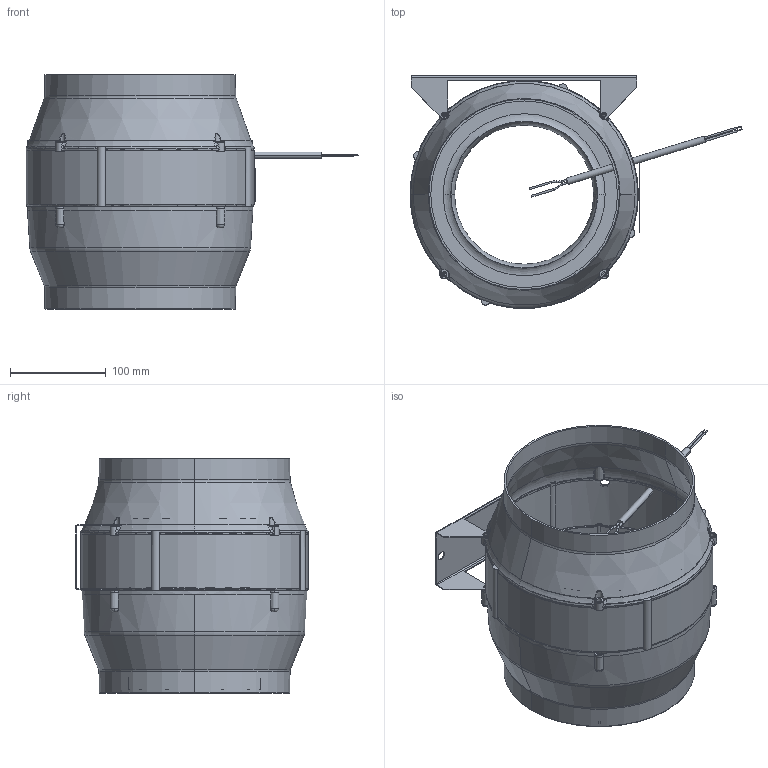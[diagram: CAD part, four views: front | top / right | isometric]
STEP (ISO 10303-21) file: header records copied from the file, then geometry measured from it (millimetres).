
FILE_DESCRIPTION (( 'STEP AP203' ), '1' );
FILE_NAME ('125324-00_EL200LE201.STEP', '2013-10-02T06:06:04', ( '' ), ( '' ), 'SwSTEP 2.0', 'SolidWorks 2012', '' );
FILE_SCHEMA (( 'CONFIG_CONTROL_DESIGN' ));
Length unit declared in the file: millimetre
Products named in the file (1): 125324-00_EL200LE201
Bounding box: 346.27 x 242.77 x 245 mm (x, y, z)
Surface area: 433753.6 mm2 (no closed solid volume)
Topology: 0 solids, 20 shells, 421 faces, 1504 edges, 1080 vertices
Faces by surface type: cylinder 128, torus 81, plane 80, bspline 70, cone 62
Entity records: 22367 total; most frequent: CARTESIAN_POINT 10316, ORIENTED_EDGE 2467, DIRECTION 2328, EDGE_CURVE 1504, VERTEX_POINT 1080, AXIS2_PLACEMENT_3D 971, CIRCLE 619, B_SPLINE_CURVE_WITH_KNOTS 489
